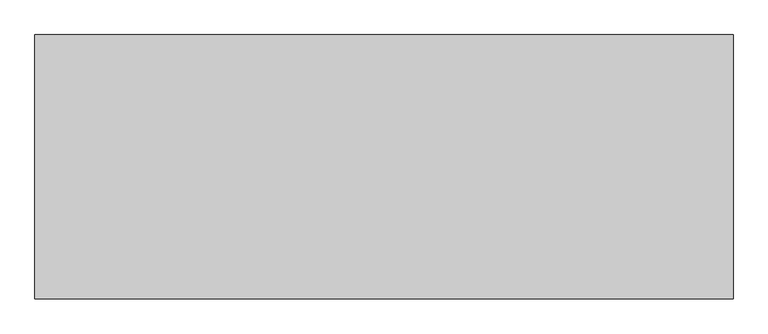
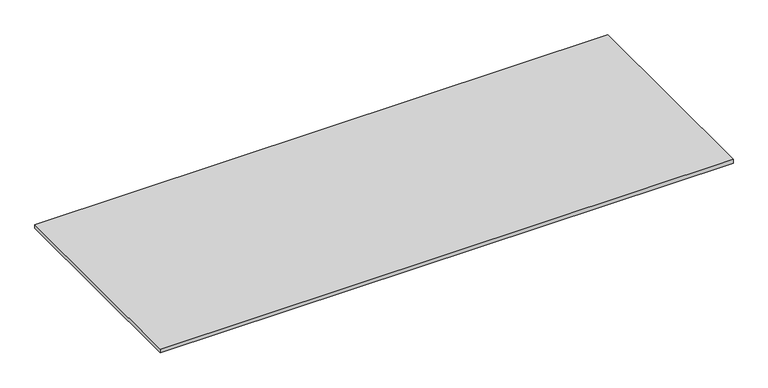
"""IFC4 building model written with IfcOpenShell, lengths in millimetres: beam geometry, Base_cover_Config-6 : Base_cover_Config-6."""

from ifc_helpers import new_model, si_unit, frame, origin, place, context, project, spatial, polyline, outline, extrude, source, transform, mapped, element, save


def beam_51ea939b(model_context):
    return source(origin(), model_context, "Body", "SweptSolid", [
        extrude(outline(polyline([(2889.0, 1076.5), (2889.0, -1076.5), (-2796.5, -1076.5), (-2796.5, 1076.5), (2889.0, 1076.5)])), frame((0.0, 0.0, 384.0), z_axis=(0.0, 0.0, 1.0), x_axis=(1.0, 0.0, 0.0)), (0.0, 0.0, 1.0), 40.0),
    ])


if __name__ == "__main__":
    model = new_model("IFC4")
    model_context = context("Model", 3, world=origin())
    ifc_project = project(units=[si_unit("LENGTHUNIT", "METRE", prefix="MILLI")], contexts=[model_context])
    site = spatial("IfcSite", under=ifc_project)
    building = spatial("IfcBuilding", under=site)
    placement = place(None, origin())
    beam_shape = beam_51ea939b(model_context)
    element("IfcBeam", 1, ObjectType="Base_cover_Config-6 : Base_cover_Config-6", at=placement, inside=building, context=model_context, shape_type="MappedRepresentation", body=[
        mapped(beam_shape, transform((0.0, 0.0, 0.0), x_axis=(1.0, 0.0, 0.0), y_axis=(0.0, 1.0, 0.0), z_axis=(0.0, 0.0, 1.0))),
    ])
    save(model, "model.ifc")
